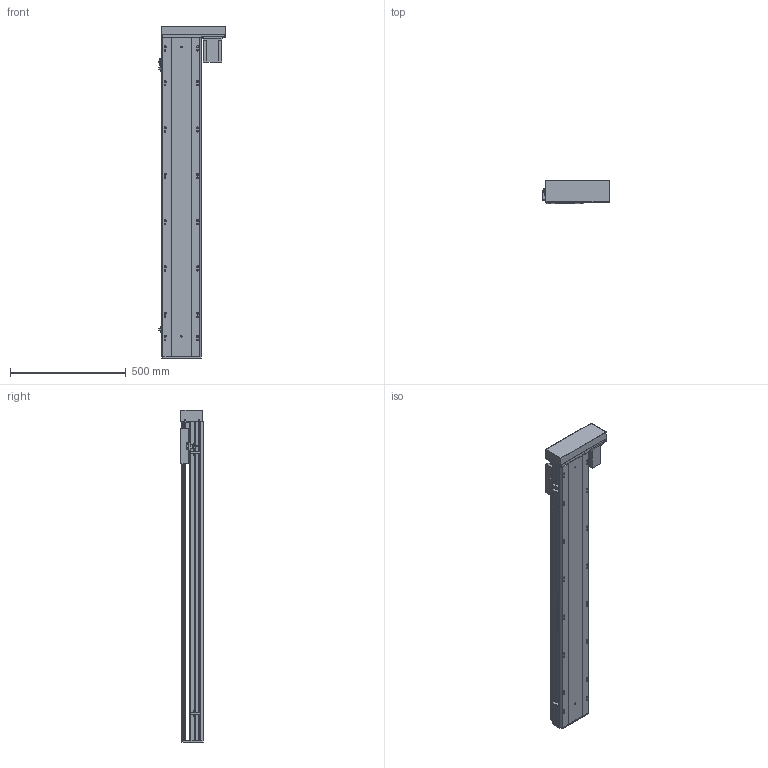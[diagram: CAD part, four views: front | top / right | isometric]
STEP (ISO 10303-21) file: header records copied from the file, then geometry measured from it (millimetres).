
FILE_DESCRIPTION (( 'STEP AP203' ), '1' );
FILE_NAME ('Y170-D10-S1150-BR-P750W.STEP', '2020-01-21T12:38:24', ( '微软用户' ), ( '微软中国' ), 'SwSTEP 2.0', 'SolidWorks 2017', '' );
FILE_SCHEMA (( 'CONFIG_CONTROL_DESIGN' ));
Length unit declared in the file: millimetre
Products named in the file (12): Y-BL.BR-俋欶; Y--BL蟀諉啣-陔遴-; Y170耜裔--準---; YD-Y100-135-新外置传感挡片(通用）; 170--掛极-BR; Y100-135俋离換覜ん; Y170-BL-P750W楊擘啣; Y170-D10-S1150-BR-P750W; 侂狟750W; EGH20賑輸_蕼偞; Y雄赽釱-耜蚾; Y170-陔遴奻裔-BR
Assembly tree (14 placements, depth 2):
  Y170-D10-S1150-BR-P750W
    Y170耜裔--準---
    170--掛极-BR
    Y170-BL-P750W楊擘啣
    侂狟750W
    EGH20賑輸_蕼偞  x2
    Y雄赽釱-耜蚾
    Y170-陔遴奻裔-BR
    Y-BL.BR-俋欶
    Y--BL蟀諉啣-陔遴-
    YD-Y100-135-新外置传感挡片(通用）
    Y100-135俋离換覜ん  x3
Bounding box: 289 x 97 x 1433.5 mm (x, y, z)
Volume: 6639368.3 mm3; surface area: 2317620.1 mm2
Topology: 14 solids, 14 shells, 945 faces, 2690 edges, 1776 vertices
Faces by surface type: cylinder 486, plane 443, cone 16
Entity records: 30250 total; most frequent: CARTESIAN_POINT 5454, DIRECTION 4988, ORIENTED_EDGE 4876, EDGE_CURVE 2438, AXIS2_PLACEMENT_3D 1778, VERTEX_POINT 1620, VECTOR 1432, LINE 1432
